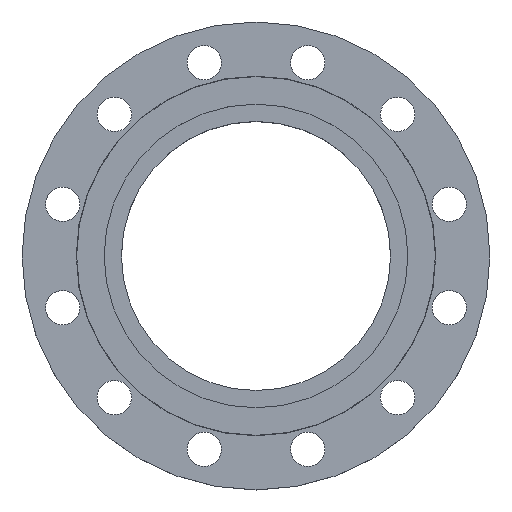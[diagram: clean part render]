
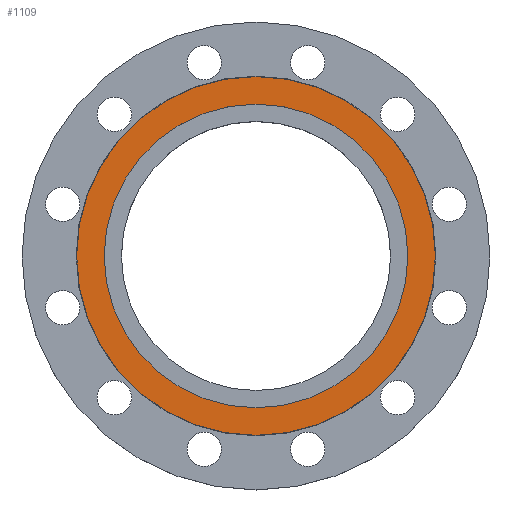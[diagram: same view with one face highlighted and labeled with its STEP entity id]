
A CAD part, top view. The second image highlights one B-rep face of the part: STEP entity #1109.
In plain terms, the highlighted planar face has unit normal (0, 0, 1).
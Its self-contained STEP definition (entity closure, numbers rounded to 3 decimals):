
#86 = DIRECTION ( 'NONE',  ( -1., 0., 0. ) ) ;
#88 = DIRECTION ( 'NONE',  ( 0., 0., -1. ) ) ;
#89 = CARTESIAN_POINT ( 'NONE',  ( 0., 0., 0. ) ) ;
#192 = CARTESIAN_POINT ( 'NONE',  ( 0., 0., 0. ) ) ;
#200 = DIRECTION ( 'NONE',  ( -1., 0., 0. ) ) ;
#219 = CARTESIAN_POINT ( 'NONE',  ( 0., 0., 0. ) ) ;
#220 = DIRECTION ( 'NONE',  ( 0., 0., 1. ) ) ;
#221 = DIRECTION ( 'NONE',  ( 1., 0., 0. ) ) ;
#222 = FACE_OUTER_BOUND ( 'NONE', #1391, .T. ) ;
#223 = FACE_BOUND ( 'NONE', #880, .T. ) ;
#226 = PLANE ( 'NONE',  #675 ) ;
#258 = ORIENTED_EDGE ( 'NONE', *, *, #1316, .F. ) ;
#259 = CARTESIAN_POINT ( 'NONE',  ( -172.5, 0., 0. ) ) ;
#267 = AXIS2_PLACEMENT_3D ( 'NONE', #192, #1255, #200 ) ;
#376 = DIRECTION ( 'NONE',  ( -1., 0., 0. ) ) ;
#378 = DIRECTION ( 'NONE',  ( 0., 0., -1. ) ) ;
#386 = CARTESIAN_POINT ( 'NONE',  ( 0., 0., 0. ) ) ;
#400 = ORIENTED_EDGE ( 'NONE', *, *, #781, .F. ) ;
#408 = ORIENTED_EDGE ( 'NONE', *, *, #986, .T. ) ;
#432 = ORIENTED_EDGE ( 'NONE', *, *, #1217, .T. ) ;
#456 = CIRCLE ( 'NONE', #1410, 146. ) ;
#489 = CARTESIAN_POINT ( 'NONE',  ( 146., 0., 0. ) ) ;
#581 = DIRECTION ( 'NONE',  ( -1., 0., 0. ) ) ;
#582 = DIRECTION ( 'NONE',  ( 0., 0., -1. ) ) ;
#585 = CARTESIAN_POINT ( 'NONE',  ( 0., 0., 0. ) ) ;
#675 = AXIS2_PLACEMENT_3D ( 'NONE', #219, #220, #221 ) ;
#699 = CIRCLE ( 'NONE', #1326, 146. ) ;
#781 = EDGE_CURVE ( 'NONE', #1483, #1090, #869, .T. ) ;
#852 = CARTESIAN_POINT ( 'NONE',  ( -146., 0., 0. ) ) ;
#869 = CIRCLE ( 'NONE', #886, 172.5 ) ;
#880 = EDGE_LOOP ( 'NONE', ( #408, #432 ) ) ;
#886 = AXIS2_PLACEMENT_3D ( 'NONE', #585, #582, #581 ) ;
#887 = VERTEX_POINT ( 'NONE', #489 ) ;
#986 = EDGE_CURVE ( 'NONE', #1398, #887, #699, .T. ) ;
#996 = CARTESIAN_POINT ( 'NONE',  ( 172.5, 0., 0. ) ) ;
#1090 = VERTEX_POINT ( 'NONE', #259 ) ;
#1109 = ADVANCED_FACE ( 'NONE', ( #222, #223 ), #226, .T. ) ;
#1217 = EDGE_CURVE ( 'NONE', #887, #1398, #456, .T. ) ;
#1255 = DIRECTION ( 'NONE',  ( 0., 0., -1. ) ) ;
#1280 = CIRCLE ( 'NONE', #267, 172.5 ) ;
#1316 = EDGE_CURVE ( 'NONE', #1090, #1483, #1280, .T. ) ;
#1326 = AXIS2_PLACEMENT_3D ( 'NONE', #386, #378, #376 ) ;
#1391 = EDGE_LOOP ( 'NONE', ( #258, #400 ) ) ;
#1398 = VERTEX_POINT ( 'NONE', #852 ) ;
#1410 = AXIS2_PLACEMENT_3D ( 'NONE', #89, #88, #86 ) ;
#1483 = VERTEX_POINT ( 'NONE', #996 ) ;
